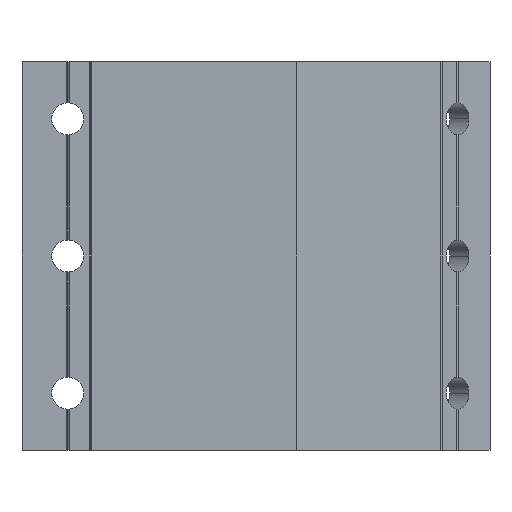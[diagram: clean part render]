
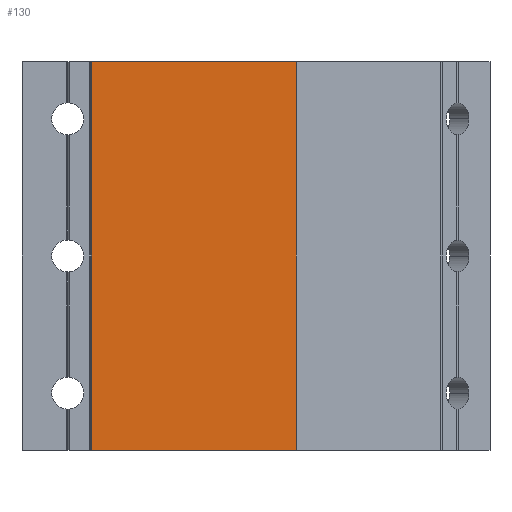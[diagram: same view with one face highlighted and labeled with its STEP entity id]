
A CAD part, front view. The second image highlights one B-rep face of the part: STEP entity #130.
In plain terms, the highlighted planar face has unit normal (0, -1, 0).
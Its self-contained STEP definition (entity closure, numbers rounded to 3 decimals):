
#94 = VERTEX_POINT ( 'NONE', #308 ) ;
#126 = DIRECTION ( 'NONE',  ( 0., 1., 0. ) ) ;
#130 = ADVANCED_FACE ( 'NONE', ( #961 ), #2924, .F. ) ;
#284 = EDGE_LOOP ( 'NONE', ( #2545, #301, #2491, #1627 ) ) ;
#301 = ORIENTED_EDGE ( 'NONE', *, *, #1888, .F. ) ;
#308 = CARTESIAN_POINT ( 'NONE',  ( -44.7, 0., -42.5 ) ) ;
#359 = LINE ( 'NONE', #2192, #2782 ) ;
#426 = LINE ( 'NONE', #1002, #953 ) ;
#497 = VECTOR ( 'NONE', #1374, 1000. ) ;
#570 = CARTESIAN_POINT ( 'NONE',  ( 0., 0., 42.5 ) ) ;
#619 = VERTEX_POINT ( 'NONE', #2081 ) ;
#732 = DIRECTION ( 'NONE',  ( 0., 0., -1. ) ) ;
#812 = VECTOR ( 'NONE', #732, 1000. ) ;
#913 = EDGE_CURVE ( 'NONE', #94, #1521, #359, .T. ) ;
#953 = VECTOR ( 'NONE', #2428, 1000. ) ;
#954 = LINE ( 'NONE', #1188, #812 ) ;
#961 = FACE_OUTER_BOUND ( 'NONE', #284, .T. ) ;
#1002 = CARTESIAN_POINT ( 'NONE',  ( -44.7, 0., 42.5 ) ) ;
#1188 = CARTESIAN_POINT ( 'NONE',  ( 0., 0., 42.5 ) ) ;
#1346 = EDGE_CURVE ( 'NONE', #619, #1497, #2371, .T. ) ;
#1374 = DIRECTION ( 'NONE',  ( 1., 0., 0. ) ) ;
#1463 = CARTESIAN_POINT ( 'NONE',  ( 0., 0., 42.5 ) ) ;
#1497 = VERTEX_POINT ( 'NONE', #1463 ) ;
#1521 = VERTEX_POINT ( 'NONE', #2679 ) ;
#1627 = ORIENTED_EDGE ( 'NONE', *, *, #2257, .T. ) ;
#1734 = DIRECTION ( 'NONE',  ( -1., 0., 0. ) ) ;
#1888 = EDGE_CURVE ( 'NONE', #1497, #1521, #954, .T. ) ;
#2081 = CARTESIAN_POINT ( 'NONE',  ( -44.7, 0., 42.5 ) ) ;
#2192 = CARTESIAN_POINT ( 'NONE',  ( 0., 0., -42.5 ) ) ;
#2242 = AXIS2_PLACEMENT_3D ( 'NONE', #570, #126, #1734 ) ;
#2257 = EDGE_CURVE ( 'NONE', #619, #94, #426, .T. ) ;
#2371 = LINE ( 'NONE', #3024, #497 ) ;
#2428 = DIRECTION ( 'NONE',  ( 0., 0., -1. ) ) ;
#2439 = DIRECTION ( 'NONE',  ( 1., 0., 0. ) ) ;
#2491 = ORIENTED_EDGE ( 'NONE', *, *, #1346, .F. ) ;
#2545 = ORIENTED_EDGE ( 'NONE', *, *, #913, .T. ) ;
#2679 = CARTESIAN_POINT ( 'NONE',  ( 0., 0., -42.5 ) ) ;
#2782 = VECTOR ( 'NONE', #2439, 1000. ) ;
#2924 = PLANE ( 'NONE',  #2242 ) ;
#3024 = CARTESIAN_POINT ( 'NONE',  ( 0., 0., 42.5 ) ) ;
